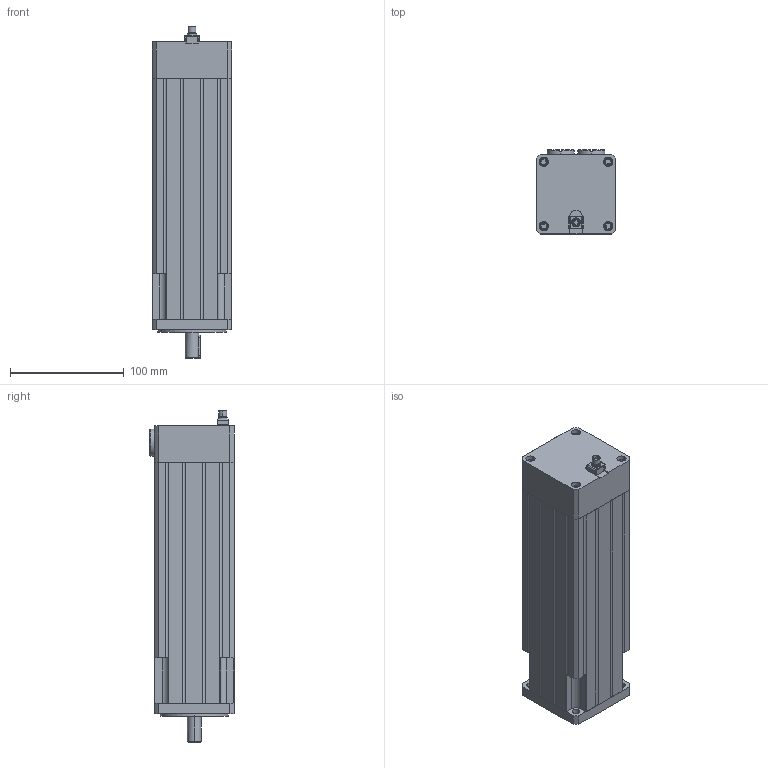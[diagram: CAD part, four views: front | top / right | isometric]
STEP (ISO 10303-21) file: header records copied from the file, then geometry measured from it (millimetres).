
FILE_DESCRIPTION (( 'STEP AP203' ), '1' );
FILE_NAME ('BTS070-06R2A2-EXD ZA.V1.STEP', '2023-03-08T02:09:50', ( 'Admin' ), ( '' ), 'SwSTEP 2.0', 'SolidWorks 2021', '' );
FILE_SCHEMA (( 'CONFIG_CONTROL_DESIGN' ));
Length unit declared in the file: millimetre
Products named in the file (1): BTS070-06R2A2-EXD  ZA.V1
Bounding box: 70 x 74 x 292 mm (x, y, z)
Volume: 1200329.5 mm3; surface area: 114030.1 mm2
Topology: 21 solids, 21 shells, 459 faces, 1098 edges, 704 vertices
Faces by surface type: plane 228, cylinder 176, torus 30, cone 25
Entity records: 13384 total; most frequent: DIRECTION 2409, CARTESIAN_POINT 2332, ORIENTED_EDGE 2152, EDGE_CURVE 1076, AXIS2_PLACEMENT_3D 885, VERTEX_POINT 704, VECTOR 639, LINE 639
